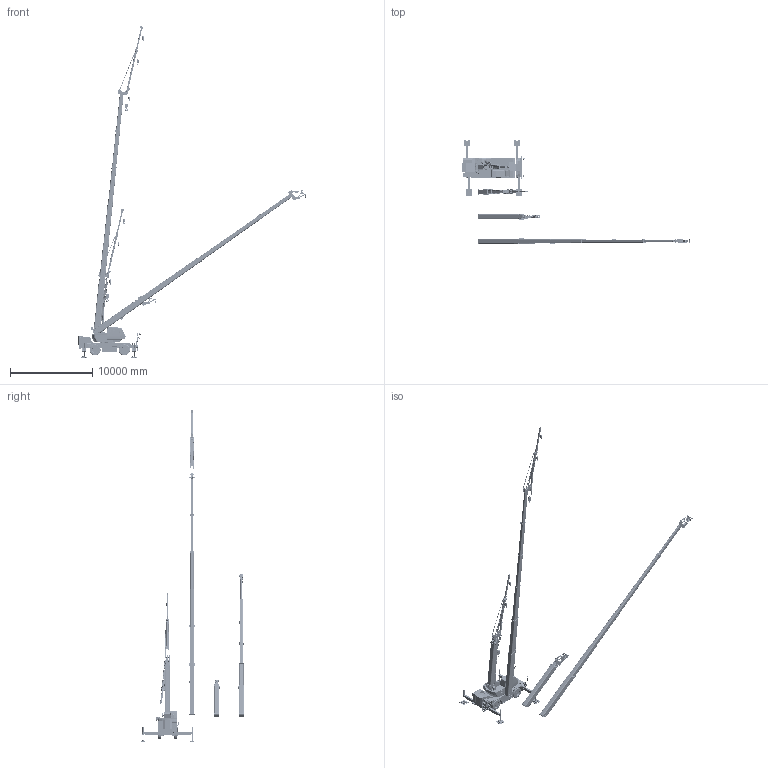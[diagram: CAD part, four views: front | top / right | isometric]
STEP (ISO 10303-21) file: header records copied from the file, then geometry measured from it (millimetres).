
FILE_DESCRIPTION(('CATIA V5 STEP Exchange','CAx-IF Rec.Pracs.--- Model Styling and Organization---1.4--- 2014-01-23'),'2;1');
FILE_NAME('\\Iba001\cad\CR\HP用CADデータ\07A\3D DATA\完成データ\MR-250Rf 3D.stp','2024-05-30T06:40:38+00:00',('none'),('none'),'CATIA Version 5-6 Release 2017 SP5 HF78','CATIA V5 STEP AP214','none');
FILE_SCHEMA(('AUTOMOTIVE_DESIGN { 1 0 10303 214 1 1 1 1 }'));
Products named in the file (49): MR-250Rf 3D; MR-250Rf UPPER; MR-250Rf UPPER STRUCTURE; MR-250Rf TABLE; MR-250Rf CAB; MR-250Rf MACHINE ROOM; MR-250Rf DERRICK CYLINDER-1; MR-250Rf DERRICK CYLINDER-2; MR-250Rf BOOM JIB Min; MR-250Rf BOOM Min; MR-250Rf BOOM1; MR-250Rf BOOM2; MR-250Rf BOOM3; MR-250Rf BOOM4; MR-250Rf BOOM5; MR-250Rf BOOM6; MR-250Rf JIB Stowed; MR-250Rf JIB min; MR-250Rf JIB1; MR-250Rf JIB2; MR-250Rf SLIDE BRACKET; MR-250Rf TENSION ROD STOWED; MR-250Rf JIB; MR-250Rf JIB 7deg 5.3m; MR-250Rf TENSION ROD; MR-250Rf JIB 7deg 8.2m; MR-250Rf JIB max; MR-250Rf HOOK 25t; MR-250Rf HOOK 4t; MR-250Rf BOOM JIB Max; MR-250Rf BOOM max; MR-250Rf BOOM SEARCHER HOOK Min; MR-250Rf SEARCHER HOOK; MR-250Rf SEARCHER HOOK 10deg 1m ASSY; MR-250Rf SEARCHER HOOK 10deg 1m; MR-250Rf SEARCHER HOOK hook; MR-250Rf SEARCHER HOOK -25deg 1m ASSY; MR-250Rf SEARCHER HOOK -25deg 1m; MR-250Rf BOOM SEARCHER HOOK Max; MR-250Rf CARRIER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
Assembly tree (80 placements, depth 7):
  MR-250Rf 3D
    MR-250Rf UPPER
      MR-250Rf UPPER STRUCTURE
        MR-250Rf TABLE
        MR-250Rf CAB
        MR-250Rf MACHINE ROOM
        MR-250Rf DERRICK CYLINDER-1
        MR-250Rf DERRICK CYLINDER-2
      MR-250Rf BOOM JIB Min
        MR-250Rf BOOM Min
          MR-250Rf BOOM1
          MR-250Rf BOOM2
          MR-250Rf BOOM3
          MR-250Rf BOOM4
          MR-250Rf BOOM5
          MR-250Rf BOOM6
        MR-250Rf JIB Stowed
          MR-250Rf JIB min
            MR-250Rf JIB1
            MR-250Rf JIB2
          MR-250Rf SLIDE BRACKET
          MR-250Rf TENSION ROD STOWED
        MR-250Rf JIB
          MR-250Rf JIB 7deg 5.3m
            MR-250Rf JIB min
              MR-250Rf JIB1
              MR-250Rf JIB2
            MR-250Rf SLIDE BRACKET
            MR-250Rf TENSION ROD
          MR-250Rf JIB 7deg 8.2m
            MR-250Rf JIB max
              MR-250Rf JIB1
              MR-250Rf JIB2
            MR-250Rf SLIDE BRACKET
            MR-250Rf TENSION ROD
        MR-250Rf HOOK 25t
        MR-250Rf HOOK 4t  x3
      MR-250Rf BOOM JIB Max
        MR-250Rf BOOM max
          MR-250Rf BOOM1
          MR-250Rf BOOM2
          MR-250Rf BOOM3
          MR-250Rf BOOM4
          MR-250Rf BOOM5
          MR-250Rf BOOM6
        MR-250Rf JIB
          MR-250Rf JIB 7deg 5.3m
            MR-250Rf JIB min
              MR-250Rf JIB1
              MR-250Rf JIB2
            MR-250Rf SLIDE BRACKET
            MR-250Rf TENSION ROD
          MR-250Rf JIB 7deg 8.2m
            MR-250Rf JIB max
              MR-250Rf JIB1
              MR-250Rf JIB2
            MR-250Rf SLIDE BRACKET
            MR-250Rf TENSION ROD
        MR-250Rf HOOK 25t
        MR-250Rf HOOK 4t  x3
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Bounding box: 27758.59 x 12709 x 40335.55 mm (x, y, z)
Volume: 55327802851.4 mm3; surface area: 558869541.5 mm2
Topology: 109 solids, 113 shells, 12707 faces, 35107 edges, 23191 vertices
Faces by surface type: plane 7606, cylinder 3005, extrusion 1264, torus 420, bspline 302, cone 101, sphere 9
Entity records: 202773 total; most frequent: CARTESIAN_POINT 76224, ORIENTED_EDGE 29570, DIRECTION 19374, EDGE_CURVE 14785, VERTEX_POINT 9747, VECTOR 9710, LINE 9165, AXIS2_PLACEMENT_3D 6183
